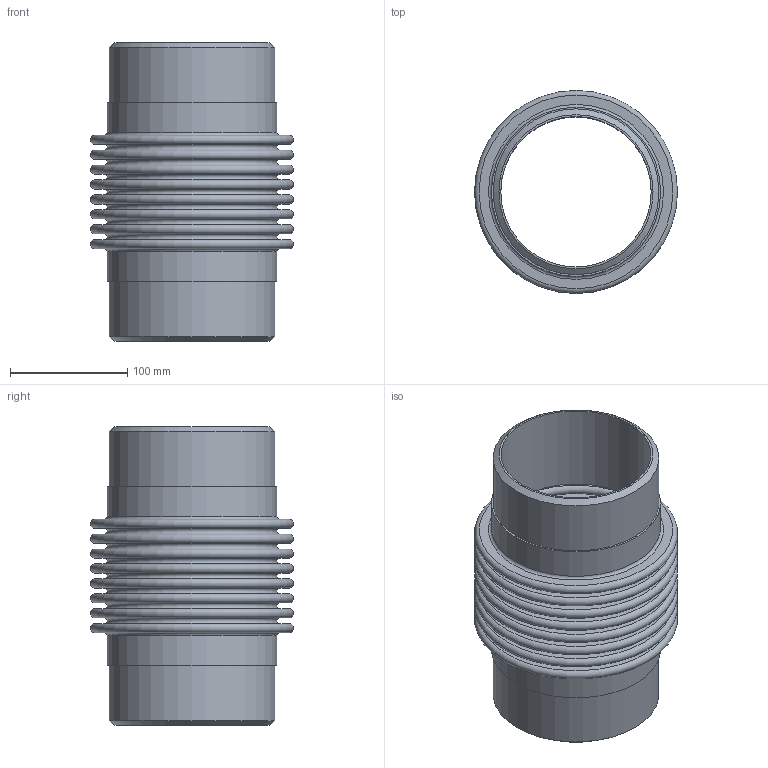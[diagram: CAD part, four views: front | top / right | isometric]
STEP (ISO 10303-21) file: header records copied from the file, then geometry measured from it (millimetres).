
FILE_DESCRIPTION(/* description */ ('EXPANSION JOINT,SINGLE, WELD ENDS,4 INCH NOMINAL'),/* implementation_level */ '2;1');
FILE_NAME(/* name */ 'US-5-300S- WELD-ENDS.stp',/* time_stamp */ '2026-07-28T10:28:39-05:00',/* author */ ('jorgef'),/* organization */ (''),/* preprocessor_version */ 'ST-DEVELOPER v20.1',/* originating_system */ 'Autodesk Inventor 2026',/* authorisation */ '');
FILE_SCHEMA (('AUTOMOTIVE_DESIGN { 1 0 10303 214 3 1 1 }'));
Length unit declared in the file: inch
Products named in the file (3): SINGLE STOCK  BELLOW WELDED ENDS 300 PSIG; STOCK BELLOW - US-5-8-300S; PIPE- 5 -300 PSIG
Assembly tree (3 placements, depth 2):
  SINGLE STOCK  BELLOW WELDED ENDS 300 PSIG
    STOCK BELLOW - US-5-8-300S
    PIPE- 5 -300 PSIG  x2
Bounding box: 172.97 x 172.97 x 254 mm (x, y, z)
Volume: 665616.8 mm3; surface area: 471406.9 mm2
Topology: 5 solids, 5 shells, 86 faces, 132 edges, 89 vertices
Faces by surface type: plane 42, torus 34, cylinder 8, cone 2
Full cylindrical faces by diameter (mm): 128.194 x2, 141.224 x2, 141.3 x2, 144.272 x2
Entity records: 2033 total; most frequent: DIRECTION 413, CARTESIAN_POINT 293, ORIENTED_EDGE 246, AXIS2_PLACEMENT_3D 203, EDGE_CURVE 123, EDGE_LOOP 121, CIRCLE 116, VERTEX_POINT 82
